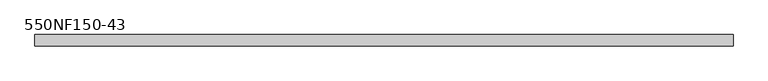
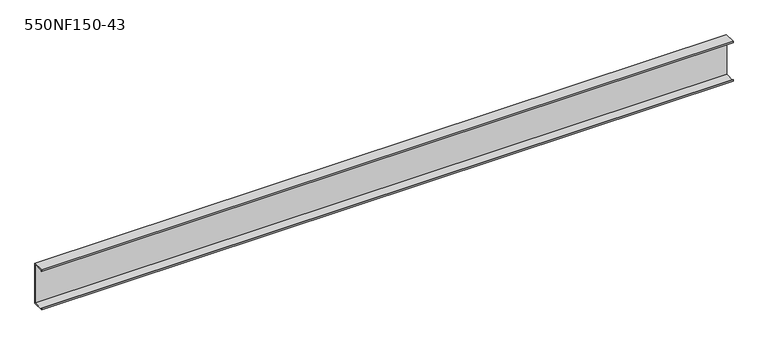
"""IFC4 building model written with IfcOpenShell, lengths in millimetres: beam geometry, BIMSF-SSMA-S : 550NF150-43."""

from ifc_helpers import new_model, si_unit, frame, origin, place, context, project, spatial, polyline, outline, extrude, source, transform, mapped, element, save


def beam_550nf150_43_2dc6aa5f(model_context):
    return source(origin(), model_context, "Body", "SweptSolid", [
        extrude(outline(polyline([(19.05, 69.85), (19.05, -69.85), (-19.05, -69.85), (-19.05, -65.0748), (-17.9003158, -65.0748), (-17.9003158, -68.7003158), (17.9003158, -68.7003158), (17.9003158, 68.7003158), (-17.9003158, 68.7003158), (-17.9003158, 65.0748), (-19.05, 65.0748), (-19.05, 69.85), (19.05, 69.85)])), frame((-1150.9375, 0.0, 0.0), z_axis=(1.0, 0.0, 0.0), x_axis=(0.0, 1.0, 0.0)), (0.0, 0.0, 1.0), 2301.875),
    ])


if __name__ == "__main__":
    model = new_model("IFC4")
    model_context = context("Model", 3, world=origin())
    ifc_project = project(units=[si_unit("LENGTHUNIT", "METRE", prefix="MILLI")], contexts=[model_context])
    site = spatial("IfcSite", under=ifc_project)
    building = spatial("IfcBuilding", under=site)
    placement = place(None, origin())
    beam_550nf150_43_shape = beam_550nf150_43_2dc6aa5f(model_context)
    element("IfcBeam", 1, ObjectType="BIMSF-SSMA-S : 550NF150-43", at=placement, inside=building, context=model_context, shape_type="MappedRepresentation", body=[
        mapped(beam_550nf150_43_shape, transform((0.0, 0.0, 0.0), x_axis=(1.0, 0.0, 0.0), y_axis=(0.0, 1.0, 0.0), z_axis=(0.0, 0.0, 1.0))),
    ])
    save(model, "model.ifc")
